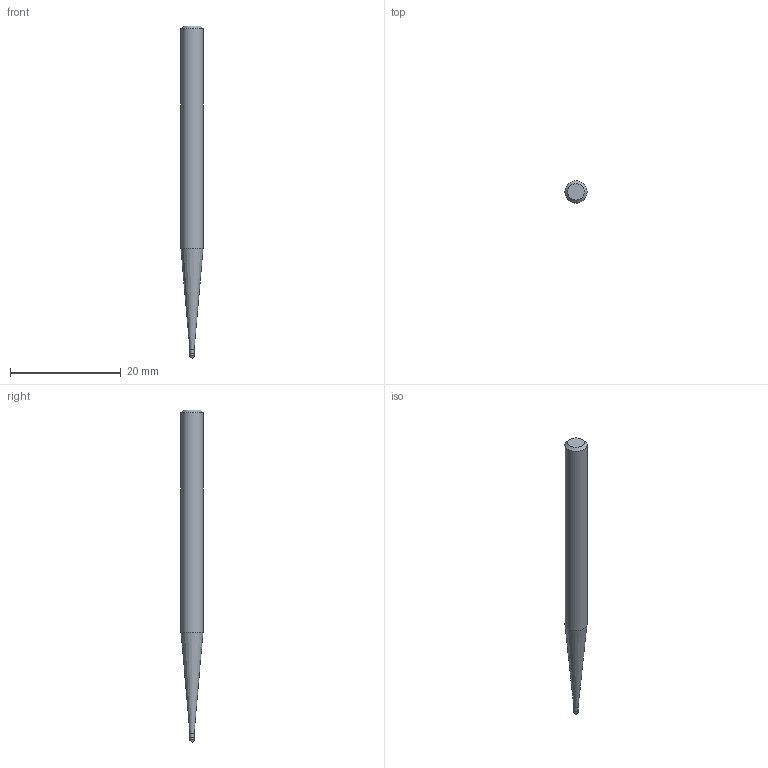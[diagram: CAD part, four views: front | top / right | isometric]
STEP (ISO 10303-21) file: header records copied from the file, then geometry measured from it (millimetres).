
FILE_DESCRIPTION((''),'2;1');
FILE_NAME('C:\Users\nsx150\AppData\Local\Temp\Mastercam 2021\SNAKH10GOD\TEMP.step','2021-10-21T13:32:05',(''),(''),'STEP Write','Mastercam 2021 ... CNC Software, Inc.','');
FILE_SCHEMA(('AUTOMOTIVE_DESIGN'));
Length unit declared in the file: millimetre
Products named in the file (1): None
Bounding box: 4 x 4 x 60 mm (x, y, z)
Volume: 598.6 mm3; surface area: 656 mm2
Topology: 2 solids, 2 shells, 9 faces, 14 edges, 8 vertices
Faces by surface type: plane 3, cylinder 3, cone 2, sphere 1
Full cylindrical faces by diameter (mm): 0.785 x1, 0.8 x1, 4 x1
Entity records: 211 total; most frequent: DIRECTION 36, CARTESIAN_POINT 25, AXIS2_PLACEMENT_3D 18, ORIENTED_EDGE 14, EDGE_LOOP 14, STYLED_ITEM 12, ADVANCED_FACE 9, FACE_BOUND 8
